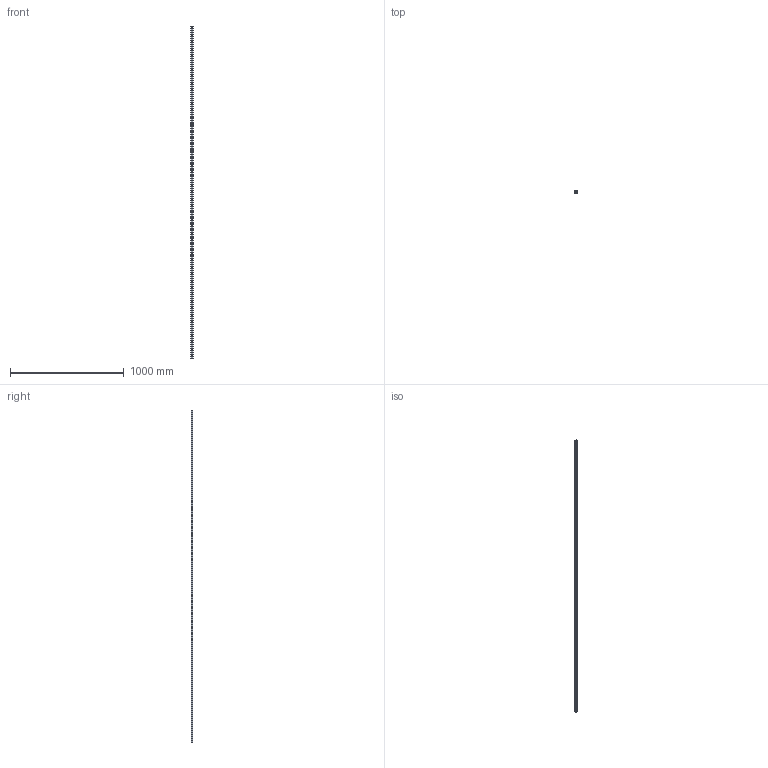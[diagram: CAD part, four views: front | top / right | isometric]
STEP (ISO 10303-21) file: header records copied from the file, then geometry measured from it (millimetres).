
FILE_DESCRIPTION (( 'STEP AP203' ), '1' );
FILE_NAME ('L1016.BL20-2920.step', '2019-06-12T11:54:56', ( '' ), ( '' ), 'SwSTEP 2.0', 'SolidWorks 2017', '' );
FILE_SCHEMA (( 'CONFIG_CONTROL_DESIGN' ));
Length unit declared in the file: millimetre
Products named in the file (1): L1016.BL20-2920
Bounding box: 20 x 16.3 x 2920 mm (x, y, z)
Volume: 811676.7 mm3; surface area: 234878 mm2
Topology: 1 solids, 1 shells, 271 faces, 660 edges, 440 vertices
Faces by surface type: cylinder 200, plane 71
Entity records: 8447 total; most frequent: DIRECTION 1604, CARTESIAN_POINT 1372, ORIENTED_EDGE 1320, AXIS2_PLACEMENT_3D 672, EDGE_CURVE 660, VERTEX_POINT 440, EDGE_LOOP 418, CIRCLE 400
